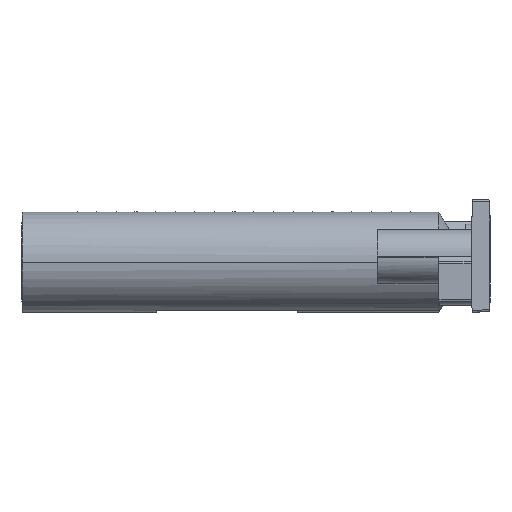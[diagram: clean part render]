
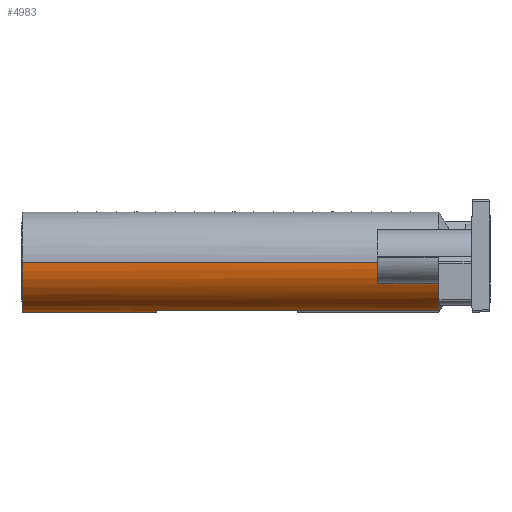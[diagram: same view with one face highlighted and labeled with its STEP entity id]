
A CAD part, left-side view. The second image highlights one B-rep face of the part: STEP entity #4983.
In plain terms, the highlighted cylindrical face has radius 5.35 mm (diameter 10.7 mm), a partial arc.
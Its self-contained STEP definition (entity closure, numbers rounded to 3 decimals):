
#147 = CARTESIAN_POINT ( 'NONE',  ( 13., -16.72, -5.35 ) ) ;
#680 = EDGE_CURVE ( 'NONE', #4868, #5337, #7708, .T. ) ;
#821 = LINE ( 'NONE', #14594, #9187 ) ;
#980 = ORIENTED_EDGE ( 'NONE', *, *, #16950, .T. ) ;
#1611 = FACE_OUTER_BOUND ( 'NONE', #4812, .T. ) ;
#1836 = DIRECTION ( 'NONE',  ( 0., 0., -1. ) ) ;
#2054 = AXIS2_PLACEMENT_3D ( 'NONE', #17338, #17041, #3156 ) ;
#2366 = ORIENTED_EDGE ( 'NONE', *, *, #9410, .F. ) ;
#2882 = CARTESIAN_POINT ( 'NONE',  ( 7.703, -40.213, -0.75 ) ) ;
#3156 = DIRECTION ( 'NONE',  ( 1., 0., 0. ) ) ;
#3230 = ORIENTED_EDGE ( 'NONE', *, *, #7331, .F. ) ;
#3236 = DIRECTION ( 'NONE',  ( -1., 0., 0. ) ) ;
#3562 = CARTESIAN_POINT ( 'NONE',  ( 11.551, -16.72, -5.15 ) ) ;
#3653 = DIRECTION ( 'NONE',  ( 0., -1., 0. ) ) ;
#4629 = VECTOR ( 'NONE', #8254, 1000. ) ;
#4812 = EDGE_LOOP ( 'NONE', ( #13661, #15481, #10464, #3230, #980, #15612, #13501, #2366 ) ) ;
#4868 = VERTEX_POINT ( 'NONE', #17750 ) ;
#4956 = EDGE_CURVE ( 'NONE', #10542, #8681, #6147, .T. ) ;
#4983 = ADVANCED_FACE ( 'NONE', ( #1611 ), #7381, .T. ) ;
#5337 = VERTEX_POINT ( 'NONE', #13945 ) ;
#5970 = CARTESIAN_POINT ( 'NONE',  ( 13., -46.735, 0. ) ) ;
#6147 = LINE ( 'NONE', #6259, #8881 ) ;
#6259 = CARTESIAN_POINT ( 'NONE',  ( 11.551, -2.4, -5.15 ) ) ;
#6293 = CARTESIAN_POINT ( 'NONE',  ( 13., -2.4, -5.35 ) ) ;
#6940 = AXIS2_PLACEMENT_3D ( 'NONE', #17035, #7774, #3236 ) ;
#7051 = VERTEX_POINT ( 'NONE', #147 ) ;
#7331 = EDGE_CURVE ( 'NONE', #7051, #16484, #14345, .T. ) ;
#7335 = CARTESIAN_POINT ( 'NONE',  ( 11.551, -46.735, -5.15 ) ) ;
#7381 = CYLINDRICAL_SURFACE ( 'NONE', #6940, 5.35 ) ;
#7548 = CIRCLE ( 'NONE', #2054, 5.35 ) ;
#7708 = LINE ( 'NONE', #12489, #19298 ) ;
#7774 = DIRECTION ( 'NONE',  ( 0., 1., 0. ) ) ;
#8023 = VERTEX_POINT ( 'NONE', #10436 ) ;
#8254 = DIRECTION ( 'NONE',  ( 0., 1., 0. ) ) ;
#8589 = EDGE_CURVE ( 'NONE', #16484, #5337, #17598, .T. ) ;
#8681 = VERTEX_POINT ( 'NONE', #7335 ) ;
#8750 = EDGE_CURVE ( 'NONE', #4868, #8023, #19765, .T. ) ;
#8881 = VECTOR ( 'NONE', #15401, 1000. ) ;
#8891 = AXIS2_PLACEMENT_3D ( 'NONE', #5970, #16928, #1836 ) ;
#8892 = AXIS2_PLACEMENT_3D ( 'NONE', #17795, #10065, #18010 ) ;
#9187 = VECTOR ( 'NONE', #3653, 1000. ) ;
#9410 = EDGE_CURVE ( 'NONE', #8023, #18458, #821, .T. ) ;
#10065 = DIRECTION ( 'NONE',  ( 0., 1., 0. ) ) ;
#10436 = CARTESIAN_POINT ( 'NONE',  ( 7.703, -40.213, -0.75 ) ) ;
#10464 = ORIENTED_EDGE ( 'NONE', *, *, #8589, .F. ) ;
#10542 = VERTEX_POINT ( 'NONE', #3562 ) ;
#11296 = CARTESIAN_POINT ( 'NONE',  ( 13., -121.522, -5.35 ) ) ;
#12489 = CARTESIAN_POINT ( 'NONE',  ( 7.65, -2.4, 0. ) ) ;
#12796 = CIRCLE ( 'NONE', #8891, 5.35 ) ;
#13501 = ORIENTED_EDGE ( 'NONE', *, *, #14264, .F. ) ;
#13661 = ORIENTED_EDGE ( 'NONE', *, *, #8750, .F. ) ;
#13945 = CARTESIAN_POINT ( 'NONE',  ( 7.65, -2.4, 0. ) ) ;
#14111 = DIRECTION ( 'NONE',  ( 0., 1., 0. ) ) ;
#14264 = EDGE_CURVE ( 'NONE', #18458, #8681, #12796, .T. ) ;
#14345 = LINE ( 'NONE', #11296, #4629 ) ;
#14594 = CARTESIAN_POINT ( 'NONE',  ( 7.703, -2.4, -0.75 ) ) ;
#15401 = DIRECTION ( 'NONE',  ( 0., -1., 0. ) ) ;
#15481 = ORIENTED_EDGE ( 'NONE', *, *, #680, .T. ) ;
#15612 = ORIENTED_EDGE ( 'NONE', *, *, #4956, .T. ) ;
#16484 = VERTEX_POINT ( 'NONE', #6293 ) ;
#16773 = CARTESIAN_POINT ( 'NONE',  ( 7.65, -40.204, -0.251 ) ) ;
#16928 = DIRECTION ( 'NONE',  ( 0., -1., 0. ) ) ;
#16950 = EDGE_CURVE ( 'NONE', #7051, #10542, #7548, .T. ) ;
#17035 = CARTESIAN_POINT ( 'NONE',  ( 13., -2.4, 0. ) ) ;
#17041 = DIRECTION ( 'NONE',  ( 0., 1., 0. ) ) ;
#17203 = CARTESIAN_POINT ( 'NONE',  ( 7.703, -46.735, -0.75 ) ) ;
#17338 = CARTESIAN_POINT ( 'NONE',  ( 13., -16.72, 0. ) ) ;
#17598 = CIRCLE ( 'NONE', #8892, 5.35 ) ;
#17750 = CARTESIAN_POINT ( 'NONE',  ( 7.65, -40.2, 0. ) ) ;
#17795 = CARTESIAN_POINT ( 'NONE',  ( 13., -2.4, 0. ) ) ;
#18010 = DIRECTION ( 'NONE',  ( 0., 0., 1. ) ) ;
#18393 = CARTESIAN_POINT ( 'NONE',  ( 7.668, -40.209, -0.501 ) ) ;
#18458 = VERTEX_POINT ( 'NONE', #17203 ) ;
#19298 = VECTOR ( 'NONE', #14111, 1000. ) ;
#19765 =( BOUNDED_CURVE ( )  B_SPLINE_CURVE ( 3, ( #19913, #16773, #18393, #2882 ),
 .UNSPECIFIED., .F., .F. ) 
 B_SPLINE_CURVE_WITH_KNOTS ( ( 4, 4 ),
 ( 1.571, 1.711 ),
 .UNSPECIFIED. ) 
 CURVE ( )  GEOMETRIC_REPRESENTATION_ITEM ( )  RATIONAL_B_SPLINE_CURVE ( ( 1., 0.998, 0.998, 1. ) ) 
 REPRESENTATION_ITEM ( '' )  );
#19913 = CARTESIAN_POINT ( 'NONE',  ( 7.65, -40.2, 0. ) ) ;
